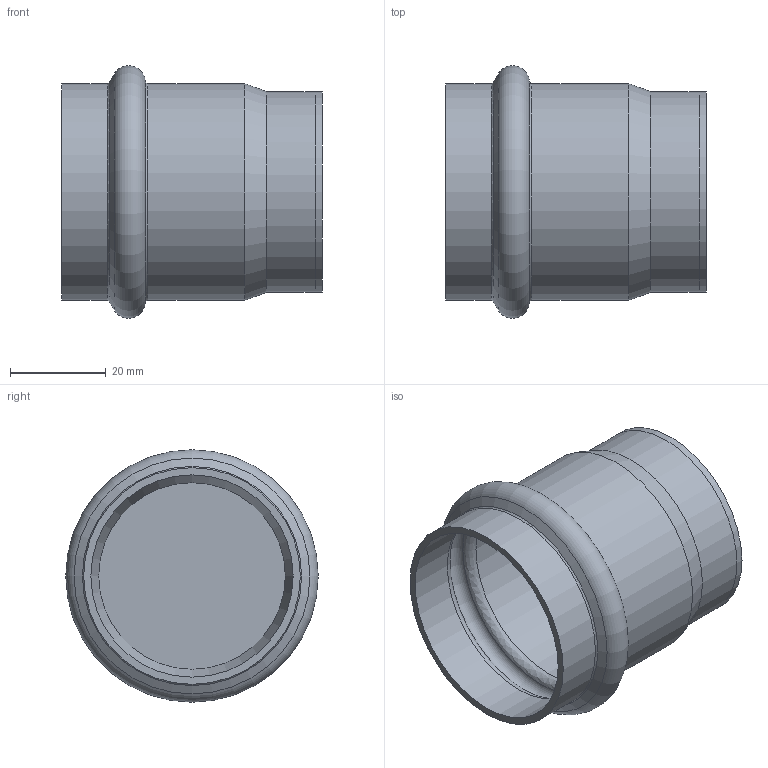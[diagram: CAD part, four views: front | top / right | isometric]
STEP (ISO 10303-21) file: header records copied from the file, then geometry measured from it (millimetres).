
FILE_DESCRIPTION((''),'2;1');
FILE_NAME('G:\Nirosan-Schmiedefeld\Technics\CAD\Bauteile VA\042\6930142(1).stp','2011-11-29T08:01:24',('herberg'),(''),'Autodesk Inventor 2009','Autodesk Inventor 2009','');
FILE_SCHEMA(('AUTOMOTIVE_DESIGN { 1 0 10303 214 1 1 1 1 }'));
Length unit declared in the file: millimetre
Products named in the file (3): 6930142(1); HM_6924342(2); D_6930142(0)
Assembly tree (2 placements, depth 2):
  6930142(1)
    HM_6924342(2)
    D_6930142(0)
Bounding box: 54.5 x 52.79 x 52.79 mm (x, y, z)
Volume: 13897.7 mm3; surface area: 19123.7 mm2
Topology: 2 solids, 2 shells, 21 faces, 39 edges, 22 vertices
Faces by surface type: cylinder 7, cone 4, bspline 4, plane 4, torus 2
Full cylindrical faces by diameter (mm): 39 x1, 42 x2, 42.3 x2, 45.3 x2
Entity records: 667 total; most frequent: CARTESIAN_POINT 242, DIRECTION 84, AXIS2_PLACEMENT_3D 42, ORIENTED_EDGE 40, EDGE_LOOP 40, FACE_OUTER_BOUND 21, ADVANCED_FACE 21, VERTEX_POINT 20
